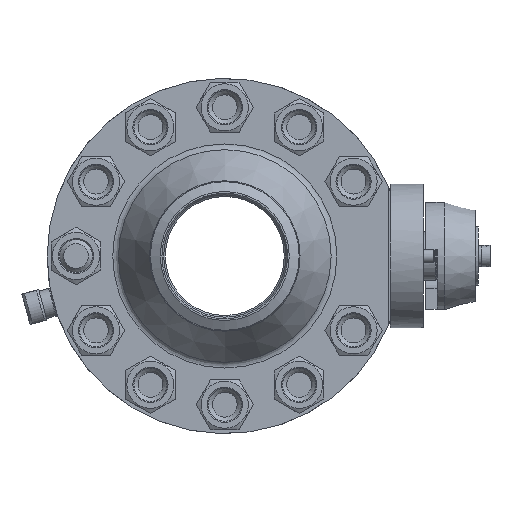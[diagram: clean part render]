
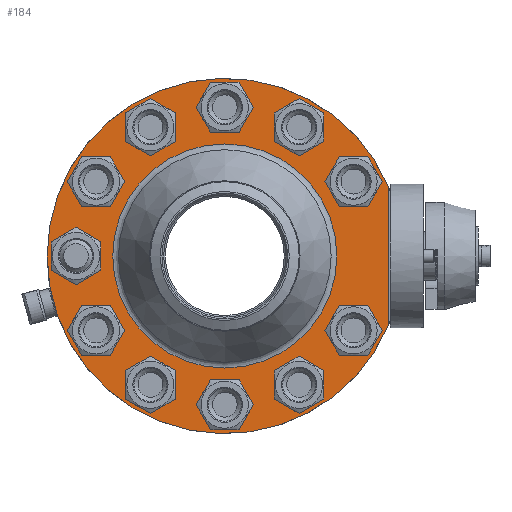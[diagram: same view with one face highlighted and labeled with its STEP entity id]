
A CAD part, left-side view. The second image highlights one B-rep face of the part: STEP entity #184.
In plain terms, the highlighted planar face has unit normal (-1, 0, 0).
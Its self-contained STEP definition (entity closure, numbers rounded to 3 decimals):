
#184=ADVANCED_FACE('',(#3470,#3472,#3474,#3476,#3478,#3480,#3482,#3484,#3486,#3488,
#3490,#3492,#3494),#3496,.T.);
#3470=FACE_BOUND('',#3471,.T.);
#3471=EDGE_LOOP('',(#8236));
#3472=FACE_BOUND('',#3473,.T.);
#3473=EDGE_LOOP('',(#8237));
#3474=FACE_BOUND('',#3475,.T.);
#3475=EDGE_LOOP('',(#8238));
#3476=FACE_BOUND('',#3477,.T.);
#3477=EDGE_LOOP('',(#8239));
#3478=FACE_BOUND('',#3479,.T.);
#3479=EDGE_LOOP('',(#8240));
#3480=FACE_BOUND('',#3481,.T.);
#3481=EDGE_LOOP('',(#8241));
#3482=FACE_BOUND('',#3483,.T.);
#3483=EDGE_LOOP('',(#8242));
#3484=FACE_BOUND('',#3485,.T.);
#3485=EDGE_LOOP('',(#8243));
#3486=FACE_BOUND('',#3487,.T.);
#3487=EDGE_LOOP('',(#8244));
#3488=FACE_BOUND('',#3489,.T.);
#3489=EDGE_LOOP('',(#8245));
#3490=FACE_BOUND('',#3491,.T.);
#3491=EDGE_LOOP('',(#8246));
#3492=FACE_BOUND('',#3493,.T.);
#3493=EDGE_LOOP('',(#8247));
#3494=FACE_OUTER_BOUND('',#3495,.T.);
#3495=EDGE_LOOP('',(#8248,#8249));
#3496=PLANE('',#3497);
#3497=AXIS2_PLACEMENT_3D('',#3498,#3499,#3500);
#3498=CARTESIAN_POINT('',(-67.5,0.,0.));
#3499=DIRECTION('',(-1.,-0.,-0.));
#3500=DIRECTION('',(0.,0.,-1.));
#8236=ORIENTED_EDGE('',*,*,#12336,.T.);
#8237=ORIENTED_EDGE('',*,*,#12337,.T.);
#8238=ORIENTED_EDGE('',*,*,#12338,.T.);
#8239=ORIENTED_EDGE('',*,*,#12339,.T.);
#8240=ORIENTED_EDGE('',*,*,#12340,.T.);
#8241=ORIENTED_EDGE('',*,*,#12252,.T.);
#8242=ORIENTED_EDGE('',*,*,#12341,.T.);
#8243=ORIENTED_EDGE('',*,*,#12342,.T.);
#8244=ORIENTED_EDGE('',*,*,#12343,.T.);
#8245=ORIENTED_EDGE('',*,*,#12344,.T.);
#8246=ORIENTED_EDGE('',*,*,#12345,.T.);
#8247=ORIENTED_EDGE('',*,*,#12346,.T.);
#8248=ORIENTED_EDGE('',*,*,#12347,.T.);
#8249=ORIENTED_EDGE('',*,*,#12348,.F.);
#12252=EDGE_CURVE('',#13722,#13722,#13724,.T.);
#12336=EDGE_CURVE('',#13878,#13878,#13879,.F.);
#12337=EDGE_CURVE('',#13880,#13880,#13881,.F.);
#12338=EDGE_CURVE('',#13882,#13882,#13883,.F.);
#12339=EDGE_CURVE('',#13884,#13884,#13885,.F.);
#12340=EDGE_CURVE('',#13886,#13886,#13887,.F.);
#12341=EDGE_CURVE('',#13888,#13888,#13889,.F.);
#12342=EDGE_CURVE('',#13890,#13890,#13891,.F.);
#12343=EDGE_CURVE('',#13892,#13892,#13893,.F.);
#12344=EDGE_CURVE('',#13894,#13894,#13895,.F.);
#12345=EDGE_CURVE('',#13896,#13896,#13897,.F.);
#12346=EDGE_CURVE('',#13898,#13898,#13899,.F.);
#12347=EDGE_CURVE('',#13900,#13901,#13902,.F.);
#12348=EDGE_CURVE('',#13900,#13901,#13903,.T.);
#13722=VERTEX_POINT('',#16561);
#13724=CIRCLE('',#16566,67.805);
#13878=VERTEX_POINT('',#19596);
#13879=CIRCLE('',#19597,14.25);
#13880=VERTEX_POINT('',#19601);
#13881=CIRCLE('',#19602,14.25);
#13882=VERTEX_POINT('',#19606);
#13883=CIRCLE('',#19607,14.25);
#13884=VERTEX_POINT('',#19611);
#13885=CIRCLE('',#19612,14.25);
#13886=VERTEX_POINT('',#19616);
#13887=CIRCLE('',#19617,14.25);
#13888=VERTEX_POINT('',#19621);
#13889=CIRCLE('',#19622,14.25);
#13890=VERTEX_POINT('',#19626);
#13891=CIRCLE('',#19627,14.25);
#13892=VERTEX_POINT('',#19631);
#13893=CIRCLE('',#19632,14.25);
#13894=VERTEX_POINT('',#19636);
#13895=CIRCLE('',#19637,14.25);
#13896=VERTEX_POINT('',#19641);
#13897=CIRCLE('',#19642,14.25);
#13898=VERTEX_POINT('',#19646);
#13899=CIRCLE('',#19647,14.25);
#13900=VERTEX_POINT('',#19651);
#13901=VERTEX_POINT('',#19652);
#13902=LINE('',#19653,#19654);
#13903=CIRCLE('',#19656,107.5);
#16561=CARTESIAN_POINT('',(-67.5,0.,-67.805));
#16566=AXIS2_PLACEMENT_3D('',#16567,#16568,#16569);
#16567=CARTESIAN_POINT('',(-67.5,0.,0.));
#16568=DIRECTION('',(1.,0.,0.));
#16569=DIRECTION('',(0.,0.,-1.));
#19596=CARTESIAN_POINT('',(-67.5,-45.,-92.192));
#19597=AXIS2_PLACEMENT_3D('',#19598,#19599,#19600);
#19598=CARTESIAN_POINT('',(-67.5,-45.,-77.942));
#19599=DIRECTION('',(-1.,-0.,-0.));
#19600=DIRECTION('',(0.,0.,-1.));
#19601=CARTESIAN_POINT('',(-67.5,57.341,-85.067));
#19602=AXIS2_PLACEMENT_3D('',#19603,#19604,#19605);
#19603=CARTESIAN_POINT('',(-67.5,45.,-77.942));
#19604=DIRECTION('',(-1.,-0.,-0.));
#19605=DIRECTION('',(0.,0.866,-0.5));
#19606=CARTESIAN_POINT('',(-67.5,102.341,7.125));
#19607=AXIS2_PLACEMENT_3D('',#19608,#19609,#19610);
#19608=CARTESIAN_POINT('',(-67.5,90.,0.));
#19609=DIRECTION('',(-1.,-0.,-0.));
#19610=DIRECTION('',(-0.,0.866,0.5));
#19611=CARTESIAN_POINT('',(-67.5,45.,92.192));
#19612=AXIS2_PLACEMENT_3D('',#19613,#19614,#19615);
#19613=CARTESIAN_POINT('',(-67.5,45.,77.942));
#19614=DIRECTION('',(-1.,-0.,-0.));
#19615=DIRECTION('',(0.,-0.,1.));
#19616=CARTESIAN_POINT('',(-67.5,-57.341,85.067));
#19617=AXIS2_PLACEMENT_3D('',#19618,#19619,#19620);
#19618=CARTESIAN_POINT('',(-67.5,-45.,77.942));
#19619=DIRECTION('',(-1.,-0.,-0.));
#19620=DIRECTION('',(0.,-0.866,0.5));
#19621=CARTESIAN_POINT('',(-67.5,-92.192,45.));
#19622=AXIS2_PLACEMENT_3D('',#19623,#19624,#19625);
#19623=CARTESIAN_POINT('',(-67.5,-77.942,45.));
#19624=DIRECTION('',(-1.,-0.,-0.));
#19625=DIRECTION('',(0.,-1.,0.));
#19626=CARTESIAN_POINT('',(-67.5,-7.125,102.341));
#19627=AXIS2_PLACEMENT_3D('',#19628,#19629,#19630);
#19628=CARTESIAN_POINT('',(-67.5,0.,90.));
#19629=DIRECTION('',(-1.,-0.,-0.));
#19630=DIRECTION('',(0.,-0.5,0.866));
#19631=CARTESIAN_POINT('',(-67.5,85.067,57.341));
#19632=AXIS2_PLACEMENT_3D('',#19633,#19634,#19635);
#19633=CARTESIAN_POINT('',(-67.5,77.942,45.));
#19634=DIRECTION('',(-1.,-0.,-0.));
#19635=DIRECTION('',(-0.,0.5,0.866));
#19636=CARTESIAN_POINT('',(-67.5,92.192,-45.));
#19637=AXIS2_PLACEMENT_3D('',#19638,#19639,#19640);
#19638=CARTESIAN_POINT('',(-67.5,77.942,-45.));
#19639=DIRECTION('',(-1.,-0.,-0.));
#19640=DIRECTION('',(0.,1.,-0.));
#19641=CARTESIAN_POINT('',(-67.5,7.125,-102.341));
#19642=AXIS2_PLACEMENT_3D('',#19643,#19644,#19645);
#19643=CARTESIAN_POINT('',(-67.5,0.,-90.));
#19644=DIRECTION('',(-1.,-0.,-0.));
#19645=DIRECTION('',(0.,0.5,-0.866));
#19646=CARTESIAN_POINT('',(-67.5,-85.067,-57.341));
#19647=AXIS2_PLACEMENT_3D('',#19648,#19649,#19650);
#19648=CARTESIAN_POINT('',(-67.5,-77.942,-45.));
#19649=DIRECTION('',(-1.,-0.,-0.));
#19650=DIRECTION('',(0.,-0.5,-0.866));
#19651=CARTESIAN_POINT('',(-67.5,-99.,-41.896));
#19652=CARTESIAN_POINT('',(-67.5,-99.,41.896));
#19653=CARTESIAN_POINT('',(-67.5,-99.,41.896));
#19654=VECTOR('',#19655,1.);
#19655=DIRECTION('',(0.,0.,-1.));
#19656=AXIS2_PLACEMENT_3D('',#19657,#19658,#19659);
#19657=CARTESIAN_POINT('',(-67.5,0.,0.));
#19658=DIRECTION('',(1.,0.,0.));
#19659=DIRECTION('',(0.,-0.921,-0.39));
